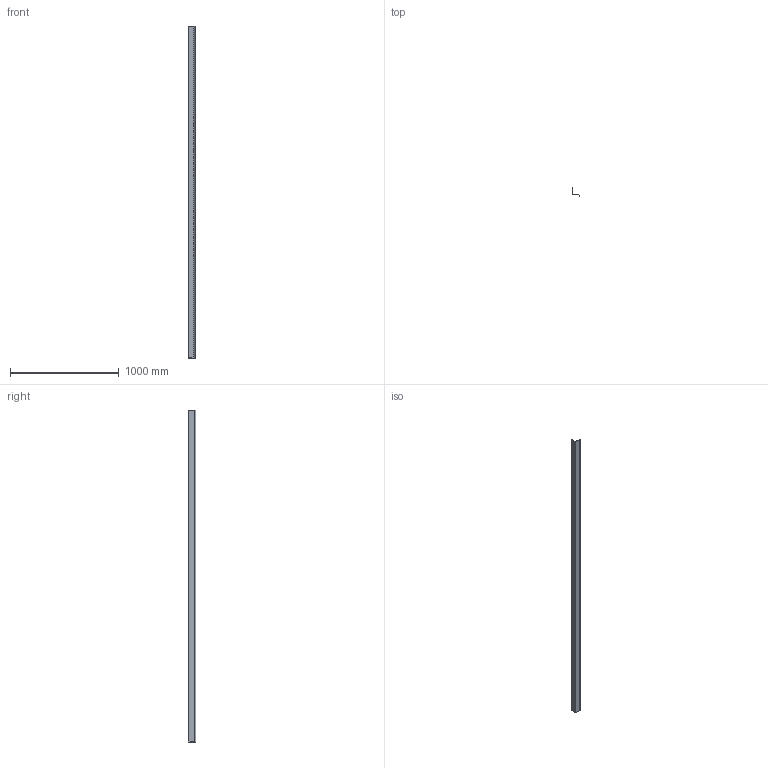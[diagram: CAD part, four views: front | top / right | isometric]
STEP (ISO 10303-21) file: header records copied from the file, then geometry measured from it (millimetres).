
FILE_DESCRIPTION (( 'STEP AP203' ), '1' );
FILE_NAME ('M53G.STEP', '2018-06-15T11:16:53', ( 'Michael Moliner' ), ( '' ), 'SwSTEP 2.0', 'SolidWorks 2018', '' );
FILE_SCHEMA (( 'CONFIG_CONTROL_DESIGN' ));
Length unit declared in the file: inch
Products named in the file (2): M53G
Bounding box: 59.62 x 69.44 x 3048 mm (x, y, z)
Volume: 285704 mm3; surface area: 1128103.2 mm2
Topology: 1 solids, 1 shells, 21 faces, 57 edges, 38 vertices
Faces by surface type: plane 14, cylinder 7
Entity records: 822 total; most frequent: CARTESIAN_POINT 118, DIRECTION 117, ORIENTED_EDGE 114, EDGE_CURVE 57, VECTOR 43, LINE 43, VERTEX_POINT 38, AXIS2_PLACEMENT_3D 37
